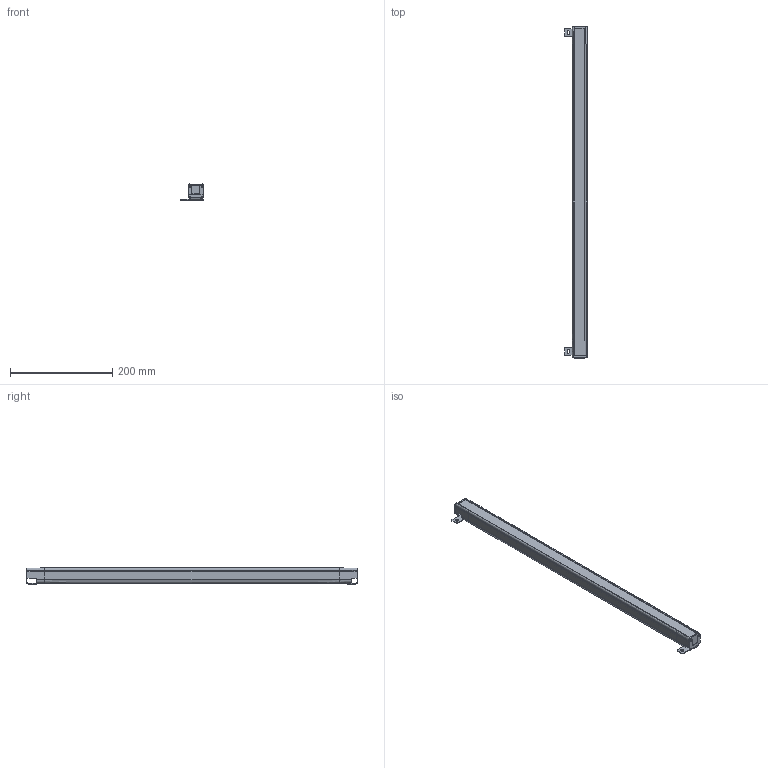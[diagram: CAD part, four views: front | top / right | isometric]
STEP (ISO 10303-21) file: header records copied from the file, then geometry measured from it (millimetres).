
FILE_DESCRIPTION(/* description */ (''),/* implementation_level */ '2;1');
FILE_NAME(/* name */ '1640(30X30).stp',/* time_stamp */ '2018-11-12T09:22:21+08:00',/* author */ (''),/* organization */ (''),/* preprocessor_version */ 'ST-DEVELOPER v16',/* originating_system */ 'SIEMENS PLM Software NX 10.0',/* authorisation */ '');
FILE_SCHEMA (('AP203_CONFIGURATION_CONTROLLED_3D_DESIGN_OF_MECHANICAL_PARTS_AND_ASSEMBLIES_MIM_LF { 1 0 10303 403 2 1 2}'));
Length unit declared in the file: millimetre
Products named in the file (1): Admi0F90EDA9228w
Bounding box: 44.89 x 648.4 x 31.39 mm (x, y, z)
Volume: 200477.4 mm3; surface area: 214947.1 mm2
Topology: 6 solids, 6 shells, 441 faces, 1311 edges, 871 vertices
Faces by surface type: plane 256, cylinder 132, cone 32, bspline 14, extrusion 7
Full cylindrical faces by diameter (mm): 1.5 x2, 3.2 x8, 3.5 x8
Entity records: 15682 total; most frequent: CARTESIAN_POINT 3875, ORIENTED_EDGE 2528, DIRECTION 2314, EDGE_CURVE 1264, VECTOR 856, VERTEX_POINT 855, LINE 849, AXIS2_PLACEMENT_3D 729
